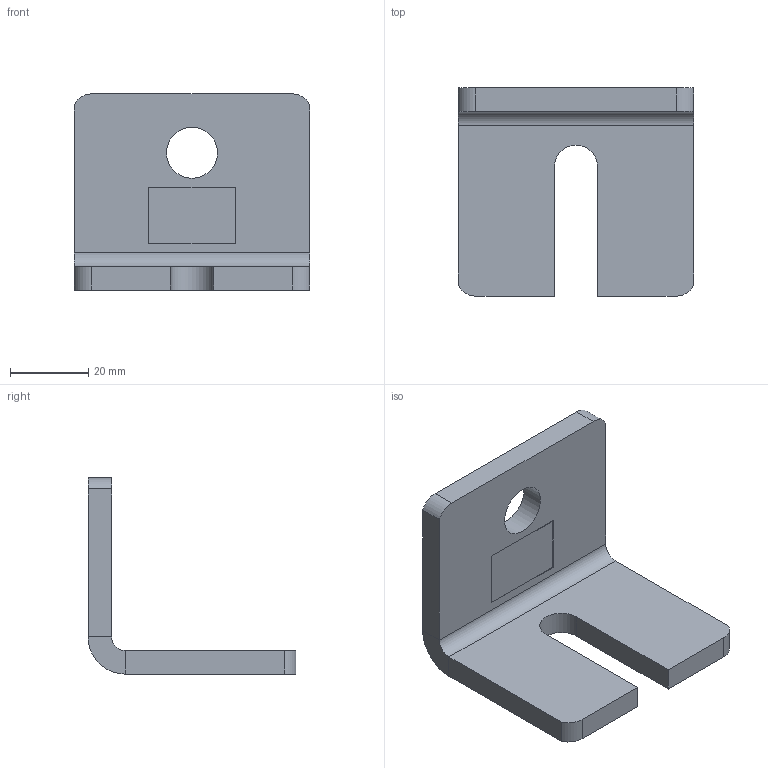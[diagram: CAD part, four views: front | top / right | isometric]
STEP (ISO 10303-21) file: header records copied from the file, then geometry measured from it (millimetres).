
FILE_DESCRIPTION(/* description */ ('Einfachkonsole Nr.0'),/* implementation_level */ '2;1');
FILE_NAME(/* name */ 'Q:\sge-ma\Produktmanagement-STB\STB\Workspace\stp\010335315.stp',/* time_stamp */ '2015-03-26T09:43:06+01:00',/* author */ ('avschreier'),/* organization */ (''),/* preprocessor_version */ 'ST-DEVELOPER v15.6',/* originating_system */ 'Autodesk Inventor 2015',/* authorisation */ '');
FILE_SCHEMA (('CONFIG_CONTROL_DESIGN'));
Length unit declared in the file: millimetre
Products named in the file (1): 010335315
Bounding box: 60 x 53 x 50 mm (x, y, z)
Volume: 30566.6 mm3; surface area: 12678.6 mm2
Topology: 1 solids, 1 shells, 28 faces, 67 edges, 42 vertices
Faces by surface type: plane 20, cylinder 8
Full cylindrical faces by diameter (mm): 13 x1
Entity records: 838 total; most frequent: DIRECTION 140, CARTESIAN_POINT 137, ORIENTED_EDGE 132, EDGE_CURVE 66, LINE 50, VECTOR 50, AXIS2_PLACEMENT_3D 45, VERTEX_POINT 42
